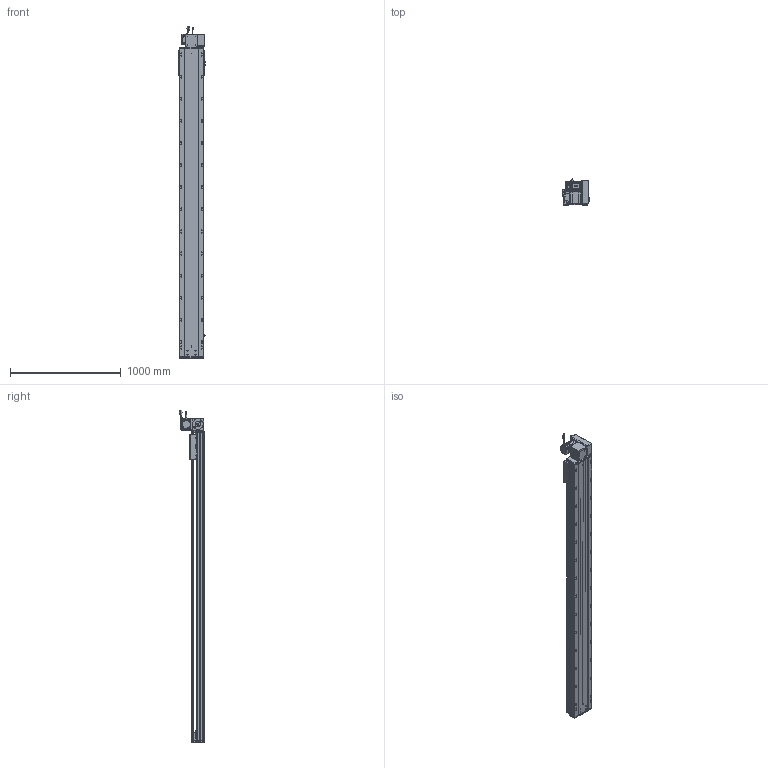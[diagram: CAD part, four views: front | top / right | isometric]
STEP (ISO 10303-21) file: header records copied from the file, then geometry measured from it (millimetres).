
FILE_DESCRIPTION (( 'STEP AP203' ), '1' );
FILE_NAME ('RY220-T-300-UR.SLDASM_2450.step', '2022-07-25T08:45:21', ( '' ), ( '' ), 'SwSTEP 2.0', 'SolidWorks 2016', '' );
FILE_SCHEMA (( 'CONFIG_CONTROL_DESIGN' ));
Length unit declared in the file: millimetre
Products named in the file (14): 覜茼ん672; RY220-T菁釱-300_2450; 怢湛750W_ECMA-CX0807ES; RY220圉猾敕々湍臏賑輸; 滅袉蝶18-15; RY220-T-蛌殏萇儂假蚾啣(750W); RY220-俋离672覜茼んえ; RY220-同步轮副支撑座6304×2; RY220-T-湍謫欶(鍼踢); 110A-T-肮祭謫釱傷裔; RY220-T-300-奻裔啣_2450; RY220翋肮祭謫釱; RY220-T-300-UR.SLDASM_2450; RY220翋肮祭謫裔啣
Assembly tree (18 placements, depth 2):
  RY220-T-300-UR.SLDASM_2450
    RY220-T菁釱-300_2450
    RY220翋肮祭謫釱
    覜茼ん672  x3
    RY220圉猾敕々湍臏賑輸
    RY220-T-300-奻裔啣_2450
    RY220-俋离672覜茼んえ
    滅袉蝶18-15  x3
    RY220翋肮祭謫裔啣  x2
    110A-T-肮祭謫釱傷裔
    怢湛750W_ECMA-CX0807ES
    RY220-T-湍謫欶(鍼踢)
    RY220-T-蛌殏萇儂假蚾啣(750W)
    RY220-同步轮副支撑座6304×2
Bounding box: 238.7 x 231.74 x 3003.27 mm (x, y, z)
Volume: 21640523.3 mm3; surface area: 6639730.6 mm2
Topology: 19 solids, 19 shells, 2928 faces, 8099 edges, 5086 vertices
Faces by surface type: cylinder 1432, plane 1069, cone 345, bspline 56, sphere 16, torus 10
Entity records: 97683 total; most frequent: CARTESIAN_POINT 27637, ORIENTED_EDGE 14490, DIRECTION 13932, EDGE_CURVE 7245, AXIS2_PLACEMENT_3D 5010, VERTEX_POINT 4710, LINE 3912, VECTOR 3912
